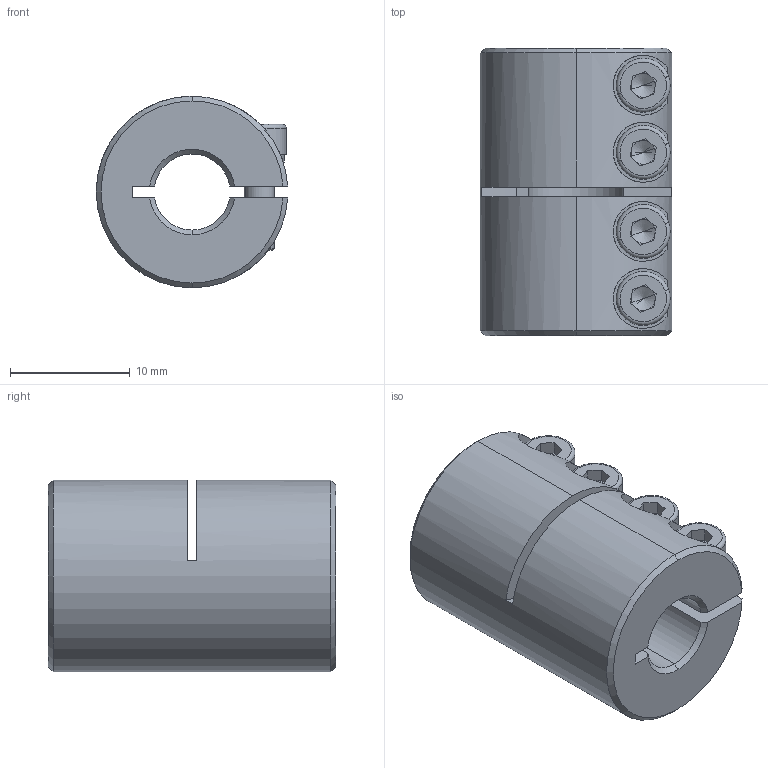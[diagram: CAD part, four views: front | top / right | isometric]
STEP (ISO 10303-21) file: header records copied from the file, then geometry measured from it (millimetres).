
FILE_DESCRIPTION (( 'STEP AP203' ), '1' );
FILE_NAME ('LL-B-D16L24-6.35-8.STEP', '2021-11-03T05:07:39', ( '' ), ( '' ), 'SwSTEP 2.0', 'SolidWorks 2018', '' );
FILE_SCHEMA (( 'CONFIG_CONTROL_DESIGN' ));
Length unit declared in the file: millimetre
Products named in the file (1): LL-B-D16L24-6.35-8
Bounding box: 15.98 x 24 x 16 mm (x, y, z)
Volume: 3554.6 mm3; surface area: 2930.2 mm2
Topology: 1 solids, 1 shells, 205 faces, 533 edges, 332 vertices
Faces by surface type: plane 92, cylinder 77, cone 28, torus 8
Entity records: 6700 total; most frequent: CARTESIAN_POINT 1537, DIRECTION 1109, ORIENTED_EDGE 1050, EDGE_CURVE 525, AXIS2_PLACEMENT_3D 432, VERTEX_POINT 332, VECTOR 245, LINE 245
